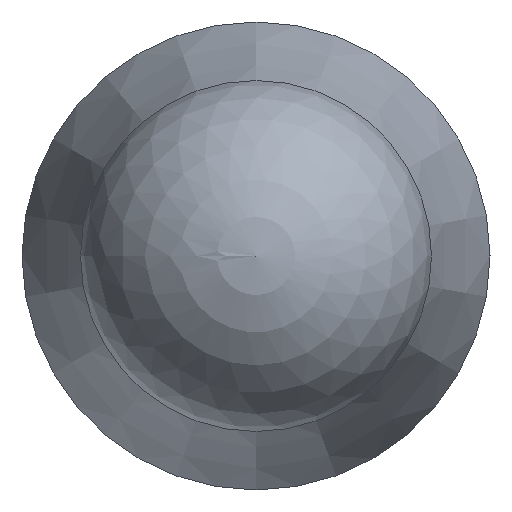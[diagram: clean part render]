
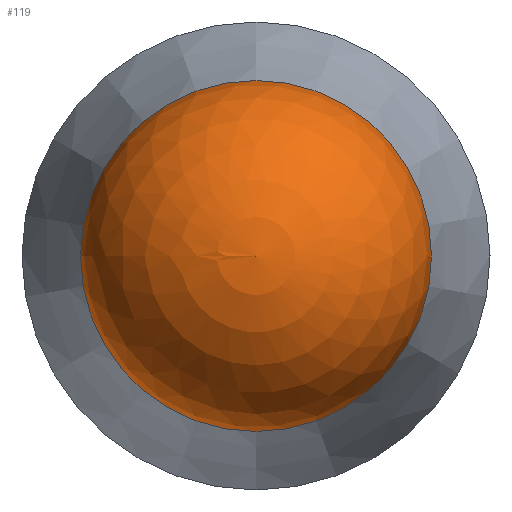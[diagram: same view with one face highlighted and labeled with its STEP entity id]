
A CAD part, left-side view. The second image highlights one B-rep face of the part: STEP entity #119.
In plain terms, the highlighted spherical face has radius 1.5 mm.
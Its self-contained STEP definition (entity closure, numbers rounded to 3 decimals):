
#95=SPHERICAL_SURFACE('',#188,1.5);
#119=ADVANCED_FACE('',(#124),#95,.T.);
#124=FACE_OUTER_BOUND('',#136,.T.);
#136=EDGE_LOOP('',(#150));
#150=ORIENTED_EDGE('',*,*,#166,.F.);
#159=VERTEX_POINT('',#242);
#166=EDGE_CURVE('',#159,#159,#173,.T.);
#173=CIRCLE('',#187,1.5);
#187=AXIS2_PLACEMENT_3D('',#241,#216,#217);
#188=AXIS2_PLACEMENT_3D('',#243,#218,#219);
#216=DIRECTION('',(1.,0.,0.));
#217=DIRECTION('',(0.,0.,-1.));
#218=DIRECTION('',(1.,0.,0.));
#219=DIRECTION('',(0.,1.,0.));
#241=CARTESIAN_POINT('',(7893.977,6104.571,0.));
#242=CARTESIAN_POINT('',(7893.977,6104.571,-1.5));
#243=CARTESIAN_POINT('',(7893.977,6104.571,0.));
